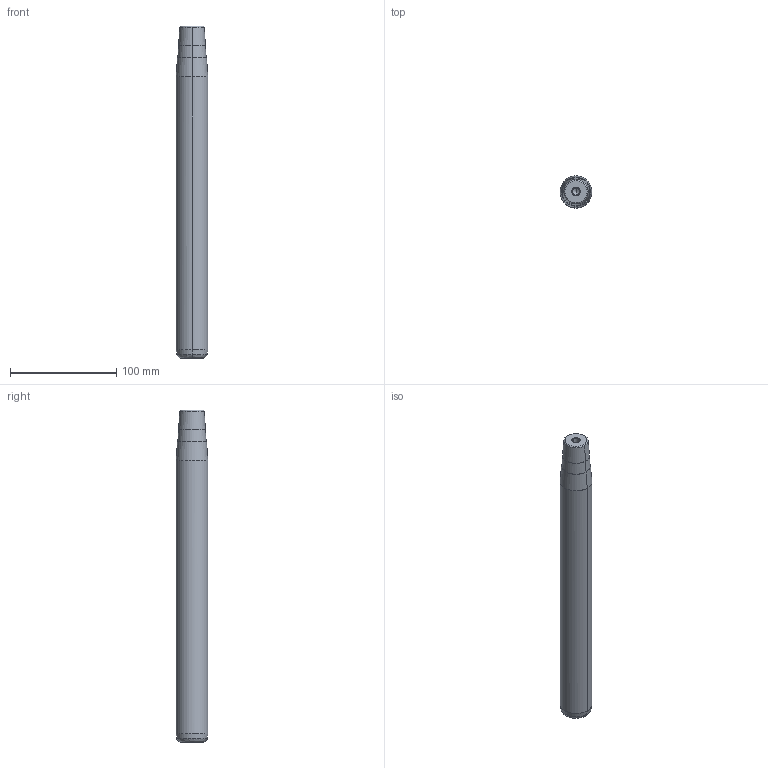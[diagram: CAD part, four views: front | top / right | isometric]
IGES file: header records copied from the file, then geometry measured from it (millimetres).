
Start section: START RECORD GO HERE.
Global section: file name: 722-30x280x313.igs; native system: DASSAULT SYSTEMES CATIA V5 R20 - www.3ds.com; preprocessor: CATIA Version 5 Release 20 ; author: Utente; organization: NB04-ASUS; date: 20210108.171531; units: millimetre
Bounding box: 30 x 30 x 313 mm (x, y, z)
Surface area: 30915.1 mm2 (no closed solid volume)
Topology: 0 solids, 0 shells, 32 faces, 192 edges, 188 vertices
Faces by surface type: revolution 30, plane 2
